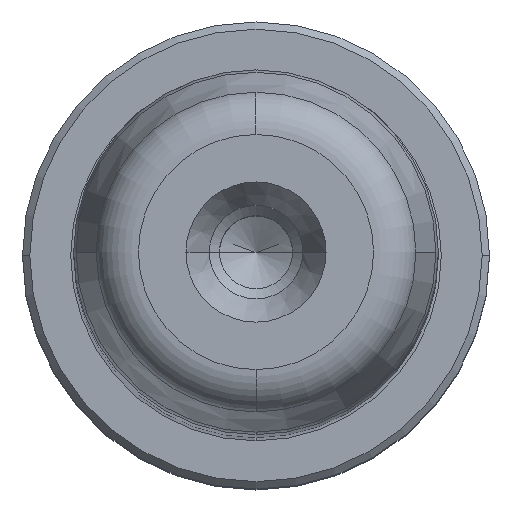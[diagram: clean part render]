
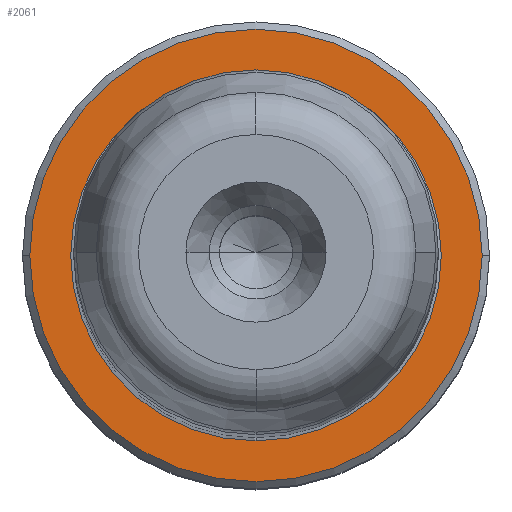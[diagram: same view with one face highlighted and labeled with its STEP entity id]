
A CAD part, top view. The second image highlights one B-rep face of the part: STEP entity #2061.
In plain terms, the highlighted planar face has unit normal (0, 0, 1).
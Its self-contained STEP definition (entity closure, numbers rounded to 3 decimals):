
#898=CARTESIAN_POINT('',(0.0,-12.7,5.));
#899=VERTEX_POINT('',#898);
#907=CARTESIAN_POINT('',(12.7,0.,5.0));
#908=VERTEX_POINT('',#907);
#909=CARTESIAN_POINT('',(0.0,0.,5.0));
#910=DIRECTION('',(0.0,0.0,1.0));
#911=DIRECTION('',(1.0,0.0,0.0));
#912=AXIS2_PLACEMENT_3D('',#909,#910,#911);
#913=CIRCLE('',#912,12.7);
#914=EDGE_CURVE('',#899,#908,#913,.T.);
#916=CARTESIAN_POINT('',(0.,12.7,5.));
#917=VERTEX_POINT('',#916);
#918=CARTESIAN_POINT('',(0.0,0.,5.0));
#919=DIRECTION('',(0.0,0.0,1.0));
#920=DIRECTION('',(1.0,0.0,0.0));
#921=AXIS2_PLACEMENT_3D('',#918,#919,#920);
#922=CIRCLE('',#921,12.7);
#923=EDGE_CURVE('',#908,#917,#922,.T.);
#950=CARTESIAN_POINT('',(15.5,0.,5.0));
#951=VERTEX_POINT('',#950);
#960=CARTESIAN_POINT('',(-15.5,0.,5.));
#961=VERTEX_POINT('',#960);
#962=CARTESIAN_POINT('',(0.0,0.,5.0));
#963=DIRECTION('',(0.0,0.0,1.0));
#964=DIRECTION('',(1.0,0.0,0.0));
#965=AXIS2_PLACEMENT_3D('',#962,#963,#964);
#966=CIRCLE('',#965,15.5);
#967=EDGE_CURVE('',#961,#951,#966,.T.);
#2031=CARTESIAN_POINT('',(0.0,0.,5.0));
#2032=DIRECTION('',(0.0,0.0,1.0));
#2033=DIRECTION('',(1.0,0.0,0.0));
#2034=AXIS2_PLACEMENT_3D('',#2031,#2032,#2033);
#2035=CIRCLE('',#2034,15.5);
#2036=EDGE_CURVE('',#951,#961,#2035,.T.);
#2041=CARTESIAN_POINT('',(14.1,0.,5.0));
#2042=DIRECTION('',(0.0,0.0,1.0));
#2043=DIRECTION('',(0.0,-1.0,0.0));
#2044=AXIS2_PLACEMENT_3D('',#2041,#2042,#2043);
#2045=PLANE('',#2044);
#2046=ORIENTED_EDGE('',*,*,#2036,.T.);
#2047=ORIENTED_EDGE('',*,*,#967,.T.);
#2048=EDGE_LOOP('',(#2046,#2047));
#2049=FACE_OUTER_BOUND('',#2048,.T.);
#2050=ORIENTED_EDGE('',*,*,#923,.F.);
#2051=ORIENTED_EDGE('',*,*,#914,.F.);
#2052=CARTESIAN_POINT('',(0.0,0.,5.0));
#2053=DIRECTION('',(0.0,0.0,1.0));
#2054=DIRECTION('',(1.0,0.0,0.0));
#2055=AXIS2_PLACEMENT_3D('',#2052,#2053,#2054);
#2056=CIRCLE('',#2055,12.7);
#2057=EDGE_CURVE('',#917,#899,#2056,.T.);
#2058=ORIENTED_EDGE('',*,*,#2057,.F.);
#2059=EDGE_LOOP('',(#2050,#2051,#2058));
#2060=FACE_BOUND('',#2059,.T.);
#2061=ADVANCED_FACE('',(#2049,#2060),#2045,.T.);
